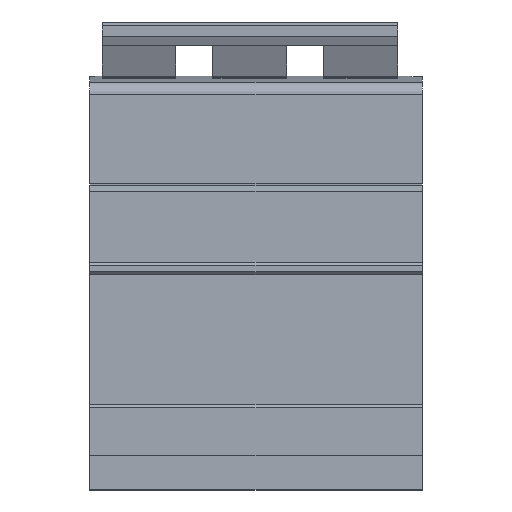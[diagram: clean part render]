
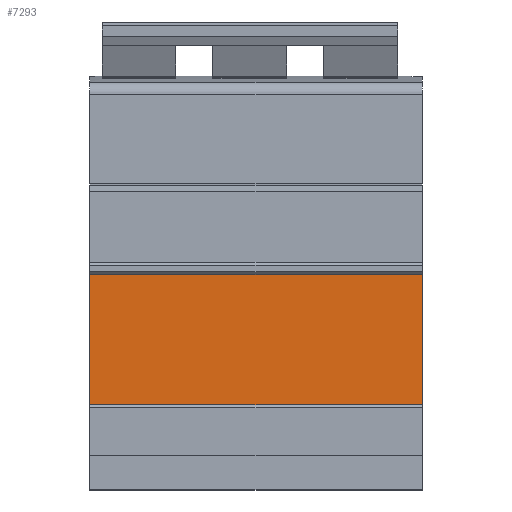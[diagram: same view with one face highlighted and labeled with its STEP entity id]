
A CAD part, front view. The second image highlights one B-rep face of the part: STEP entity #7293.
In plain terms, the highlighted planar face has unit normal (0, -1, 0).
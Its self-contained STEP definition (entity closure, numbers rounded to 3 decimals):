
#315=LINE('',#11641,#977);
#351=LINE('',#11951,#1013);
#395=LINE('',#12042,#1057);
#396=LINE('',#12044,#1058);
#977=VECTOR('',#9078,10.);
#1013=VECTOR('',#9470,10.);
#1057=VECTOR('',#9526,10.);
#1058=VECTOR('',#9529,10.);
#1942=FACE_OUTER_BOUND('',#2505,.T.);
#2505=EDGE_LOOP('',(#5669,#5670,#5671,#5672));
#3357=VERTEX_POINT('',#11638);
#3358=VERTEX_POINT('',#11640);
#3453=VERTEX_POINT('',#11948);
#3454=VERTEX_POINT('',#11950);
#4153=EDGE_CURVE('',#3357,#3358,#315,.T.);
#4279=EDGE_CURVE('',#3454,#3453,#351,.T.);
#4326=EDGE_CURVE('',#3453,#3358,#395,.T.);
#4327=EDGE_CURVE('',#3454,#3357,#396,.T.);
#5669=ORIENTED_EDGE('',*,*,#4279,.T.);
#5670=ORIENTED_EDGE('',*,*,#4326,.T.);
#5671=ORIENTED_EDGE('',*,*,#4153,.F.);
#5672=ORIENTED_EDGE('',*,*,#4327,.F.);
#6849=PLANE('',#8012);
#7293=ADVANCED_FACE('',(#1942),#6849,.T.);
#8012=AXIS2_PLACEMENT_3D('',#12043,#9527,#9528);
#9078=DIRECTION('',(0.,0.,-1.));
#9470=DIRECTION('',(0.,0.,-1.));
#9526=DIRECTION('',(1.,0.,0.));
#9527=DIRECTION('center_axis',(0.,-1.,0.));
#9528=DIRECTION('ref_axis',(0.,0.,-1.));
#9529=DIRECTION('',(1.,0.,0.));
#11638=CARTESIAN_POINT('',(54.,-45.241,5.4));
#11640=CARTESIAN_POINT('',(54.,-45.241,-15.712));
#11641=CARTESIAN_POINT('',(54.,-45.241,5.4));
#11948=CARTESIAN_POINT('',(0.,-45.241,-15.712));
#11950=CARTESIAN_POINT('',(0.,-45.241,5.4));
#11951=CARTESIAN_POINT('',(0.,-45.241,5.4));
#12042=CARTESIAN_POINT('',(0.,-45.241,-15.712));
#12043=CARTESIAN_POINT('Origin',(0.,-45.241,5.4));
#12044=CARTESIAN_POINT('',(0.,-45.241,5.4));
